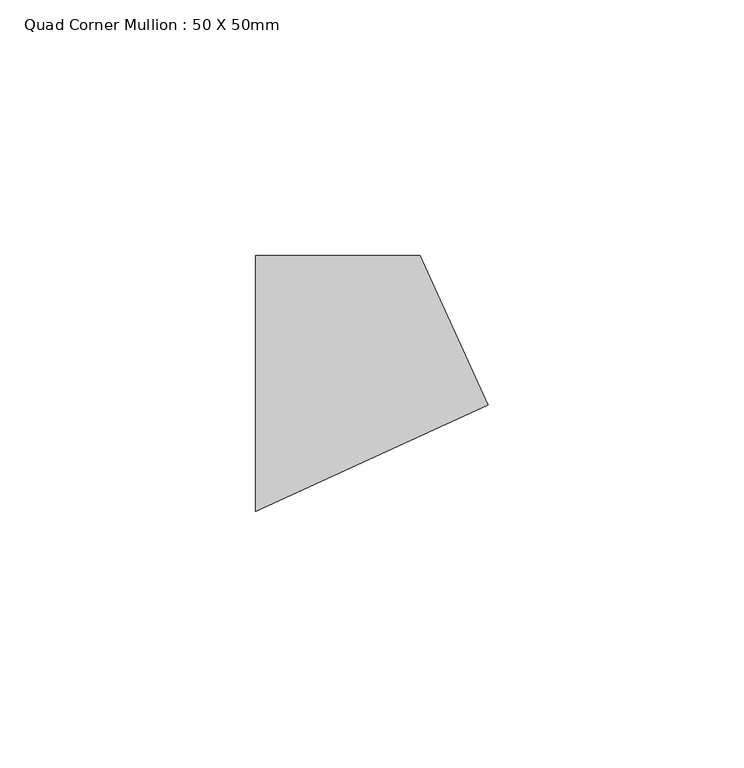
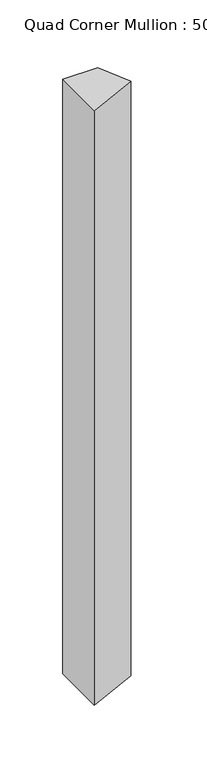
"""IFC4 building model written with IfcOpenShell, lengths in millimetres: member geometry, Quad Corner Mullion : 50 X 50mm."""

from ifc_helpers import new_model, si_unit, frame, origin, place, context, project, spatial, polyline, outline, extrude, source, transform, mapped, element, save


def quad_corner_mullion_50_x_50mm_30a5314f(model_context):
    return source(origin(), model_context, "Body", "SweptSolid", [
        extrude(outline(polyline([(29.4125559, -4.1926582), (-16.0523154, -25.0), (-16.0523154, 25.0), (16.0523154, 25.0), (29.4125559, -4.1926582)])), frame((0.0, 0.0, -576.7729569), z_axis=(0.0, 0.0, 1.0), x_axis=(1.0, 0.0, 0.0)), (0.0, 0.0, 1.0), 576.7729569),
    ])


if __name__ == "__main__":
    model = new_model("IFC4")
    model_context = context("Model", 3, world=origin())
    ifc_project = project(units=[si_unit("LENGTHUNIT", "METRE", prefix="MILLI")], contexts=[model_context])
    site = spatial("IfcSite", under=ifc_project)
    building = spatial("IfcBuilding", under=site)
    placement = place(None, origin())
    quad_corner_mullion_50_x_50mm_shape = quad_corner_mullion_50_x_50mm_30a5314f(model_context)
    element("IfcMember", 1, ObjectType="Quad Corner Mullion : 50 X 50mm", at=placement, inside=building, context=model_context, shape_type="MappedRepresentation", body=[
        mapped(quad_corner_mullion_50_x_50mm_shape, transform((0.0, 0.0, 0.0), x_axis=(1.0, 0.0, 0.0), y_axis=(0.0, 1.0, 0.0), z_axis=(0.0, 0.0, 1.0))),
    ])
    save(model, "model.ifc")
